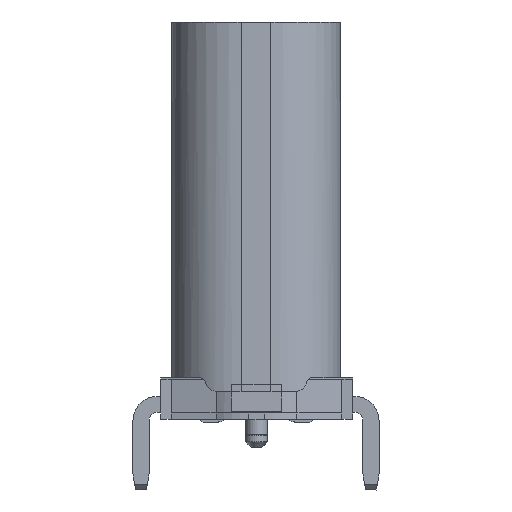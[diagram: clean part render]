
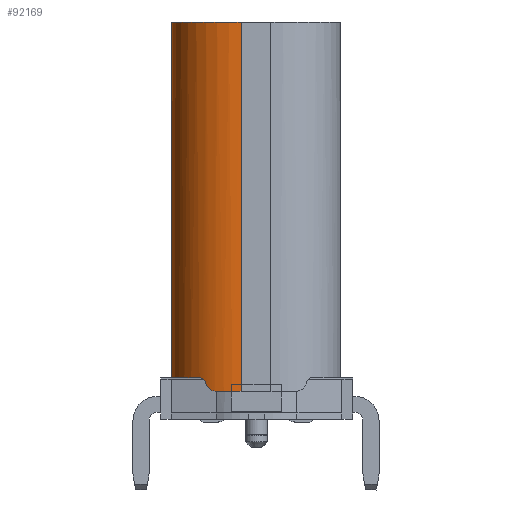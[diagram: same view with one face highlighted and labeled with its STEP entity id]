
A CAD part, left-side view. The second image highlights one B-rep face of the part: STEP entity #92169.
In plain terms, the highlighted cylindrical face has radius 1.3 mm (diameter 2.6 mm), a partial arc.
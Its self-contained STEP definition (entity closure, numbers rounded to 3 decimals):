
#88059=CARTESIAN_POINT('',(-64.57,-1.771,-47.193));
#88060=DIRECTION('',(0.,0.,1.));
#88061=DIRECTION('',(-0.928,0.371,0.));
#88062=AXIS2_PLACEMENT_3D('',#88059,#88060,#88061);
#88087=CARTESIAN_POINT('',(-64.57,-1.771,-40.293));
#88088=DIRECTION('',(0.,0.,1.));
#88089=DIRECTION('',(0.,1.,0.));
#88090=AXIS2_PLACEMENT_3D('',#88087,#88088,#88089);
#88092=DIRECTION('',(0.,0.,-1.));
#88093=VECTOR('',#88092,6.9);
#88094=CARTESIAN_POINT('',(-65.87,-1.771,-40.293));
#88095=LINE('',#88094,#88093);
#88096=CARTESIAN_POINT('',(-65.777,-1.289,
-47.193));
#88097=CARTESIAN_POINT('',(-65.771,-1.273,-47.193));
#88098=CARTESIAN_POINT('',(-65.758,-1.242,
-47.189));
#88099=CARTESIAN_POINT('',(-65.737,-1.197,
-47.169));
#88100=CARTESIAN_POINT('',(-65.718,-1.161,
-47.139));
#88101=CARTESIAN_POINT('',(-65.702,-1.132,
-47.097));
#88102=CARTESIAN_POINT('',(-65.695,-1.12,
-47.067));
#88103=CARTESIAN_POINT('',(-65.693,-1.116,
-47.05));
#88105=DIRECTION('',(0.,0.,1.));
#88106=VECTOR('',#88105,6.65);
#88107=CARTESIAN_POINT('',(-64.57,-0.471,-46.943));
#88108=LINE('',#88107,#88106);
#88169=CARTESIAN_POINT('',(-65.613,-0.996,
-46.943));
#88170=CARTESIAN_POINT('',(-65.621,-1.006,
-46.943));
#88171=CARTESIAN_POINT('',(-65.636,-1.027,
-46.946));
#88172=CARTESIAN_POINT('',(-65.656,-1.057,
-46.961));
#88173=CARTESIAN_POINT('',(-65.673,-1.083,
-46.984));
#88174=CARTESIAN_POINT('',(-65.685,-1.104,
-47.014));
#88175=CARTESIAN_POINT('',(-65.691,-1.113,
-47.038));
#88176=CARTESIAN_POINT('',(-65.693,-1.116,
-47.05));
#88209=CARTESIAN_POINT('',(-64.57,-1.771,-46.943));
#88210=DIRECTION('',(0.,0.,1.));
#88211=DIRECTION('',(0.,1.,0.));
#88212=AXIS2_PLACEMENT_3D('',#88209,#88210,#88211);
#89527=CARTESIAN_POINT('',(-64.57,-0.471,-46.943));
#89529=VERTEX_POINT('',#89527);
#89675=CARTESIAN_POINT('',(-65.613,-0.996,
-46.943));
#89676=VERTEX_POINT('',#89675);
#89697=CARTESIAN_POINT('',(-65.777,-1.289,
-47.193));
#89699=VERTEX_POINT('',#89697);
#89700=CARTESIAN_POINT('',(-65.87,-1.771,-47.193));
#89701=VERTEX_POINT('',#89700);
#89704=VERTEX_POINT('',#88103);
#90003=CARTESIAN_POINT('',(-64.57,-0.471,-40.293));
#90005=VERTEX_POINT('',#90003);
#90013=CARTESIAN_POINT('',(-65.87,-1.771,-40.293));
#90014=VERTEX_POINT('',#90013);
#92151=CARTESIAN_POINT('',(-64.57,-1.771,-58.224));
#92152=DIRECTION('',(0.,0.,1.));
#92153=DIRECTION('',(0.,1.,0.));
#92154=AXIS2_PLACEMENT_3D('',#92151,#92152,#92153);
#92155=CYLINDRICAL_SURFACE('',#92154,1.3);
#92156=ORIENTED_EDGE('',*,*,#90240,.T.);
#92158=ORIENTED_EDGE('',*,*,#92157,.T.);
#92159=ORIENTED_EDGE('',*,*,#92120,.F.);
#92160=ORIENTED_EDGE('',*,*,#92138,.T.);
#92162=ORIENTED_EDGE('',*,*,#92161,.F.);
#92164=ORIENTED_EDGE('',*,*,#92163,.F.);
#92166=ORIENTED_EDGE('',*,*,#92165,.T.);
#92167=EDGE_LOOP('',(#92156,#92158,#92159,#92160,#92162,#92164,#92166));
#92168=FACE_OUTER_BOUND('',#92167,.F.);
#88063=CIRCLE('',#88062,1.3);
#88091=CIRCLE('',#88090,1.3);
#88104=B_SPLINE_CURVE_WITH_KNOTS('',3,(#88096,#88097,#88098,#88099,#88100,
#88101,#88102,#88103),.UNSPECIFIED.,.F.,.F.,(4,1,1,1,1,4),(0.,0.2,0.4,
0.6,0.8,1.),.UNSPECIFIED.);
#88177=B_SPLINE_CURVE_WITH_KNOTS('',3,(#88169,#88170,#88171,#88172,#88173,
#88174,#88175,#88176),.UNSPECIFIED.,.F.,.F.,(4,1,1,1,1,4),(0.,0.2,0.4,
0.6,0.8,1.),.UNSPECIFIED.);
#88213=CIRCLE('',#88212,1.3);
#90240=EDGE_CURVE('',#90005,#90014,#88091,.T.);
#92120=EDGE_CURVE('',#89699,#89701,#88063,.T.);
#92138=EDGE_CURVE('',#89699,#89704,#88104,.T.);
#92157=EDGE_CURVE('',#90014,#89701,#88095,.T.);
#92161=EDGE_CURVE('',#89676,#89704,#88177,.T.);
#92163=EDGE_CURVE('',#89529,#89676,#88213,.T.);
#92165=EDGE_CURVE('',#89529,#90005,#88108,.T.);
#92169=ADVANCED_FACE('',(#92168),#92155,.T.);
